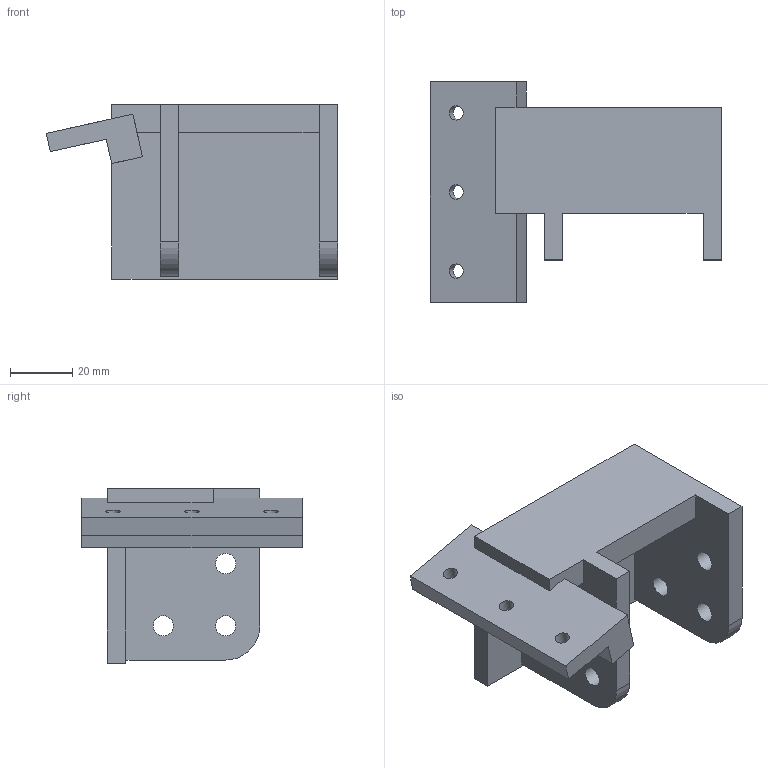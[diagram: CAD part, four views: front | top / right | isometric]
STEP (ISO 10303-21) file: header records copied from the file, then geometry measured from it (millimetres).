
FILE_DESCRIPTION(('Open CASCADE Model'),'2;1');
FILE_NAME('Open CASCADE Shape Model','2026-10-15T20:56:35',('Author'),( 'Open CASCADE'),'Open CASCADE STEP processor 7.9','Open CASCADE 7.9' ,'Unknown');
FILE_SCHEMA(('AUTOMOTIVE_DESIGN { 1 0 10303 214 1 1 1 1 }'));
Length unit declared in the file: millimetre
Products named in the file (1): Open CASCADE STEP translator 7.9 1
Bounding box: 93.58 x 70.8 x 56 mm (x, y, z)
Volume: 82196.3 mm3; surface area: 28670.8 mm2
Topology: 1 solids, 1 shells, 38 faces, 108 edges, 72 vertices
Faces by surface type: plane 27, cylinder 11
Full cylindrical faces by diameter (mm): 4.6 x3, 6.5 x6
Entity records: 2696 total; most frequent: CARTESIAN_POINT 585, DIRECTION 364, LINE 238, VECTOR 238, ORIENTED_EDGE 216, PCURVE 216, DEFINITIONAL_REPRESENTATION 216, EDGE_CURVE 108
